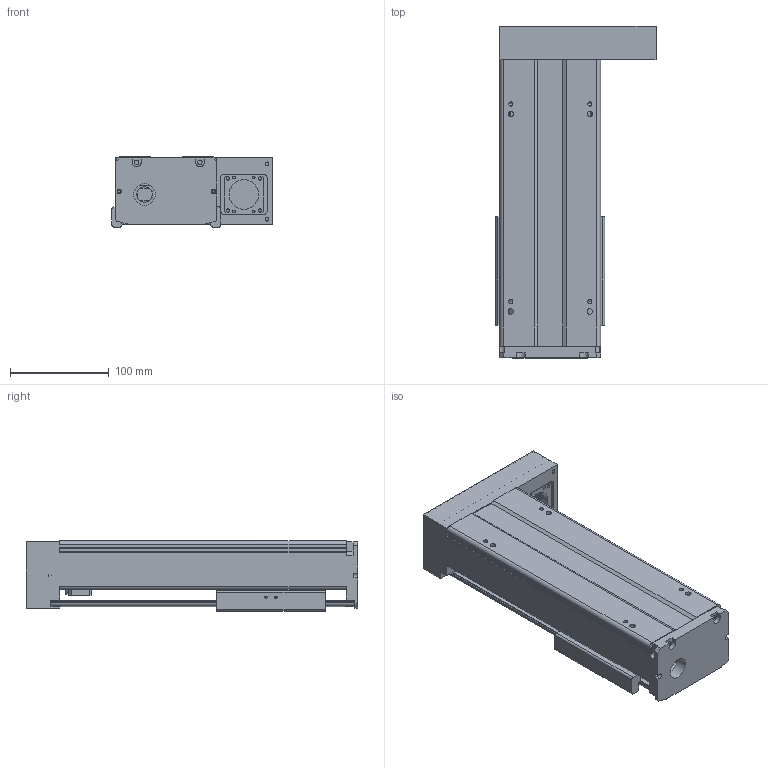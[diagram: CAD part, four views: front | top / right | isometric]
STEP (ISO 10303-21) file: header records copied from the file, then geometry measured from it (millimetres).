
FILE_DESCRIPTION(/* description */ (''),/* implementation_level */ '2;1');
FILE_NAME(/* name */ 'TKA100-FR-100-1_asm1.stp',/* time_stamp */ '2016-05-17T15:31:24+08:00',/* author */ (''),/* organization */ (''),/* preprocessor_version */ 'ST-DEVELOPER v15',/* originating_system */ 'SIEMENS PLM Software NX 8.5',/* authorisation */ '');
FILE_SCHEMA (('AUTOMOTIVE_DESIGN { 1 0 10303 214 3 1 1 1 }'));
Length unit declared in the file: millimetre
Products named in the file (3): 200-2; 200-1; TKA100-FR-100-1_asm1
Assembly tree (2 placements, depth 2):
  TKA100-FR-100-1_asm1
    200-1
    200-2
Bounding box: 162 x 336 x 71 mm (x, y, z)
Volume: 969832.3 mm3; surface area: 333780 mm2
Topology: 2 solids, 16 shells, 768 faces, 1981 edges, 1290 vertices
Faces by surface type: plane 316, cylinder 283, cone 115, torus 28, bspline 26
Full cylindrical faces by diameter (mm): 2.5 x6, 2.6 x8, 3.3 x11, 3.4 x4, 3.8 x8, 4.2 x13, 4.3 x4, 4.5 x6, 5 x2, 5.5 x12, 6.6 x4, 8 x4, 9 x6, 10 x5, 11 x4, 12 x6, 15.3 x1, 16 x1, 22 x1, 24 x1, 28 x2, 30 x1, 33 x1
Entity records: 28208 total; most frequent: CARTESIAN_POINT 10398, DIRECTION 3649, ORIENTED_EDGE 3488, EDGE_CURVE 1744, AXIS2_PLACEMENT_3D 1429, VERTEX_POINT 1222, EDGE_LOOP 1031, LINE 791
